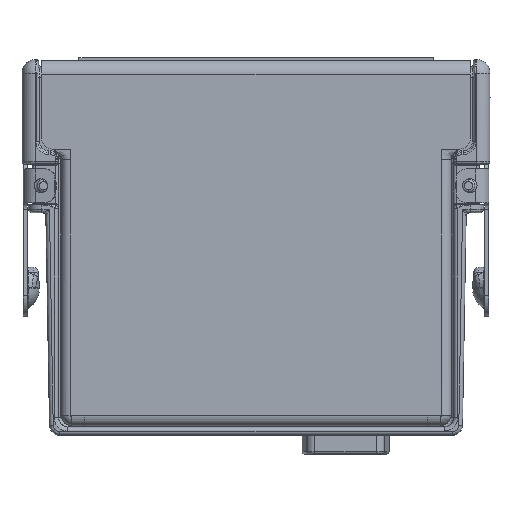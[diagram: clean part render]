
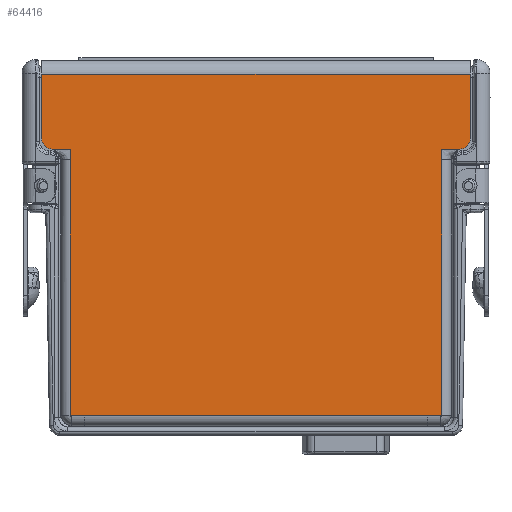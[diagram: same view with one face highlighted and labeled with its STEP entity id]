
A CAD part, left-side view. The second image highlights one B-rep face of the part: STEP entity #64416.
In plain terms, the highlighted planar face has unit normal (-1, 0, 0).
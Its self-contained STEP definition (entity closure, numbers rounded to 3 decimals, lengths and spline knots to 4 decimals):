
#18694=DIRECTION('',(0.,-1.,0.));
#18695=VECTOR('',#18694,3.179);
#18696=CARTESIAN_POINT('',(-0.4475,1.5895,2.676));
#18697=LINE('',#18696,#18695);
#18790=CARTESIAN_POINT('',(-0.4475,1.5095,2.2));
#18791=DIRECTION('',(-1.,0.,0.));
#18792=DIRECTION('',(0.,1.,0.));
#18793=AXIS2_PLACEMENT_3D('',#18790,#18791,#18792);
#18795=DIRECTION('',(0.,-1.,0.));
#18796=VECTOR('',#18795,0.133);
#18797=CARTESIAN_POINT('',(-0.4475,1.5095,2.12));
#18798=LINE('',#18797,#18796);
#18807=DIRECTION('',(0.,0.,-1.));
#18808=VECTOR('',#18807,0.476);
#18809=CARTESIAN_POINT('',(-0.4475,1.5895,2.676));
#18810=LINE('',#18809,#18808);
#18811=DIRECTION('',(0.,0.,1.));
#18812=VECTOR('',#18811,0.476);
#18813=CARTESIAN_POINT('',(-0.4475,-1.5895,2.2));
#18814=LINE('',#18813,#18812);
#18815=DIRECTION('',(0.,0.,1.));
#18816=VECTOR('',#18815,0.079);
#18817=CARTESIAN_POINT('',(-0.4475,-1.3765,2.041));
#18818=LINE('',#18817,#18816);
#18819=DIRECTION('',(0.,-1.,0.));
#18820=VECTOR('',#18819,0.105);
#18821=CARTESIAN_POINT('',(-0.4475,-1.2715,0.146));
#18822=LINE('',#18821,#18820);
#18823=DIRECTION('',(0.,-1.,0.));
#18824=VECTOR('',#18823,0.105);
#18825=CARTESIAN_POINT('',(-0.4475,1.3765,0.146));
#18826=LINE('',#18825,#18824);
#18827=DIRECTION('',(0.,0.,1.));
#18828=VECTOR('',#18827,0.079);
#18829=CARTESIAN_POINT('',(-0.4475,1.3765,2.041));
#18830=LINE('',#18829,#18828);
#18848=CARTESIAN_POINT('',(-0.4475,-1.5095,2.2));
#18849=DIRECTION('',(-1.,0.,0.));
#18850=DIRECTION('',(0.,0.,-1.));
#18851=AXIS2_PLACEMENT_3D('',#18848,#18849,#18850);
#18861=DIRECTION('',(0.,-1.,0.));
#18862=VECTOR('',#18861,0.133);
#18863=CARTESIAN_POINT('',(-0.4475,-1.3765,2.12));
#18864=LINE('',#18863,#18862);
#18896=DIRECTION('',(0.,0.,1.));
#18897=VECTOR('',#18896,1.895);
#18898=CARTESIAN_POINT('',(-0.4475,-1.3765,0.146));
#18899=LINE('',#18898,#18897);
#19087=DIRECTION('',(0.,-1.,0.));
#19088=VECTOR('',#19087,2.543);
#19089=CARTESIAN_POINT('',(-0.4475,1.2715,0.146));
#19090=LINE('',#19089,#19088);
#20955=DIRECTION('',(0.,0.,1.));
#20956=VECTOR('',#20955,1.895);
#20957=CARTESIAN_POINT('',(-0.4475,1.3765,0.146));
#20958=LINE('',#20957,#20956);
#38688=CARTESIAN_POINT('',(-0.4475,-1.5895,2.676));
#38689=VERTEX_POINT('',#38688);
#38690=CARTESIAN_POINT('',(-0.4475,1.5895,2.676));
#38691=VERTEX_POINT('',#38690);
#38720=CARTESIAN_POINT('',(-0.4475,1.2715,0.146));
#38721=CARTESIAN_POINT('',(-0.4475,-1.2715,0.146));
#38722=VERTEX_POINT('',#38720);
#38723=VERTEX_POINT('',#38721);
#38732=CARTESIAN_POINT('',(-0.4475,-1.3765,0.146));
#38733=VERTEX_POINT('',#38732);
#38744=CARTESIAN_POINT('',(-0.4475,1.3765,0.146));
#38745=VERTEX_POINT('',#38744);
#38793=CARTESIAN_POINT('',(-0.4475,1.5095,2.12));
#38795=VERTEX_POINT('',#38793);
#38798=CARTESIAN_POINT('',(-0.4475,1.5895,2.2));
#38799=VERTEX_POINT('',#38798);
#38801=CARTESIAN_POINT('',(-0.4475,-1.5895,2.2));
#38803=VERTEX_POINT('',#38801);
#38806=CARTESIAN_POINT('',(-0.4475,-1.5095,2.12));
#38807=VERTEX_POINT('',#38806);
#38820=CARTESIAN_POINT('',(-0.4475,-1.3765,2.041));
#38821=VERTEX_POINT('',#38820);
#38824=CARTESIAN_POINT('',(-0.4475,-1.3765,2.12));
#38825=VERTEX_POINT('',#38824);
#38832=CARTESIAN_POINT('',(-0.4475,1.3765,2.041));
#38833=CARTESIAN_POINT('',(-0.4475,1.3765,2.12));
#38834=VERTEX_POINT('',#38832);
#38835=VERTEX_POINT('',#38833);
#64384=CARTESIAN_POINT('',(-0.4475,0.,1.421));
#64385=DIRECTION('',(-1.,0.,0.));
#64386=DIRECTION('',(0.,1.,0.));
#64387=AXIS2_PLACEMENT_3D('',#64384,#64385,#64386);
#64388=PLANE('',#64387);
#64389=ORIENTED_EDGE('',*,*,#64365,.F.);
#64391=ORIENTED_EDGE('',*,*,#64390,.F.);
#64392=ORIENTED_EDGE('',*,*,#64249,.T.);
#64394=ORIENTED_EDGE('',*,*,#64393,.F.);
#64396=ORIENTED_EDGE('',*,*,#64395,.F.);
#64398=ORIENTED_EDGE('',*,*,#64397,.F.);
#64400=ORIENTED_EDGE('',*,*,#64399,.F.);
#64402=ORIENTED_EDGE('',*,*,#64401,.F.);
#64404=ORIENTED_EDGE('',*,*,#64403,.F.);
#64406=ORIENTED_EDGE('',*,*,#64405,.F.);
#64408=ORIENTED_EDGE('',*,*,#64407,.F.);
#64410=ORIENTED_EDGE('',*,*,#64409,.T.);
#64412=ORIENTED_EDGE('',*,*,#64411,.T.);
#64413=ORIENTED_EDGE('',*,*,#64376,.F.);
#64414=EDGE_LOOP('',(#64389,#64391,#64392,#64394,#64396,#64398,#64400,#64402,
#64404,#64406,#64408,#64410,#64412,#64413));
#64415=FACE_OUTER_BOUND('',#64414,.F.);
#64416=ADVANCED_FACE('',(#64415),#64388,.T.);
#18794=CIRCLE('',#18793,0.08);
#18852=CIRCLE('',#18851,0.08);
#64249=EDGE_CURVE('',#38691,#38689,#18697,.T.);
#64365=EDGE_CURVE('',#38799,#38795,#18794,.T.);
#64376=EDGE_CURVE('',#38795,#38835,#18798,.T.);
#64390=EDGE_CURVE('',#38691,#38799,#18810,.T.);
#64393=EDGE_CURVE('',#38803,#38689,#18814,.T.);
#64395=EDGE_CURVE('',#38807,#38803,#18852,.T.);
#64397=EDGE_CURVE('',#38825,#38807,#18864,.T.);
#64399=EDGE_CURVE('',#38821,#38825,#18818,.T.);
#64401=EDGE_CURVE('',#38733,#38821,#18899,.T.);
#64403=EDGE_CURVE('',#38723,#38733,#18822,.T.);
#64405=EDGE_CURVE('',#38722,#38723,#19090,.T.);
#64407=EDGE_CURVE('',#38745,#38722,#18826,.T.);
#64409=EDGE_CURVE('',#38745,#38834,#20958,.T.);
#64411=EDGE_CURVE('',#38834,#38835,#18830,.T.);
